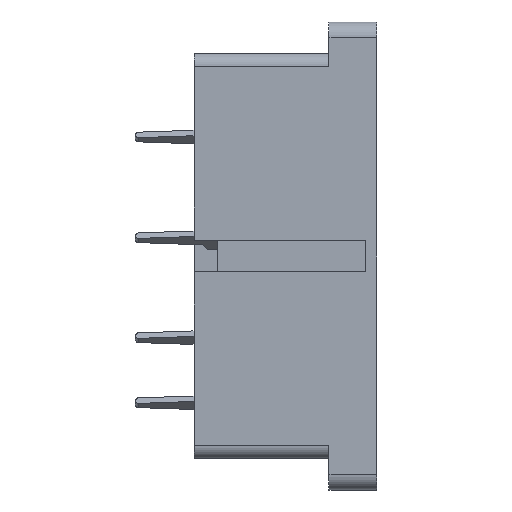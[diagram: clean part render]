
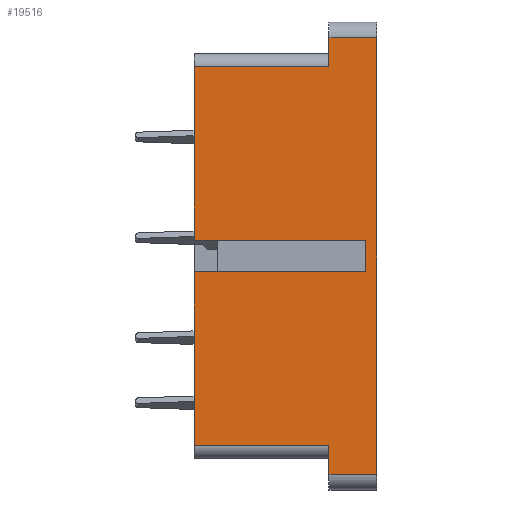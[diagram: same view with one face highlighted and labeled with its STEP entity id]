
A CAD part, left-side view. The second image highlights one B-rep face of the part: STEP entity #19516.
In plain terms, the highlighted planar face has unit normal (-1, 0, 0).
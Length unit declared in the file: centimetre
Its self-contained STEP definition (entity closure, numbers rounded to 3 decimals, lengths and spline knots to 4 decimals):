
#1760=FACE_OUTER_BOUND('',#2716,.T.);
#2716=EDGE_LOOP('',(#17871,#17872,#17873,#17874,#17875,#17876,#17877,#17878,
#17879,#17880,#17881,#17882));
#4668=LINE('',#30076,#7138);
#4671=LINE('',#30086,#7141);
#4699=LINE('',#30150,#7169);
#5103=LINE('',#31021,#7573);
#5104=LINE('',#31024,#7574);
#5114=LINE('',#31048,#7584);
#5117=LINE('',#31058,#7587);
#5125=LINE('',#31072,#7595);
#5155=LINE('',#31133,#7625);
#5161=LINE('',#31144,#7631);
#5162=LINE('',#31146,#7632);
#5177=LINE('',#31174,#7647);
#7138=VECTOR('',#24564,1.095);
#7141=VECTOR('',#24573,1.095);
#7169=VECTOR('',#24621,2.75);
#7573=VECTOR('',#25467,0.85);
#7574=VECTOR('',#25470,0.85);
#7584=VECTOR('',#25494,0.3);
#7587=VECTOR('',#25505,0.18);
#7595=VECTOR('',#25517,0.3);
#7625=VECTOR('',#25581,1.08);
#7631=VECTOR('',#25591,1.08);
#7632=VECTOR('',#25594,0.2);
#7647=VECTOR('',#25625,0.18);
#9162=VERTEX_POINT('',#30073);
#9163=VERTEX_POINT('',#30075);
#9166=VERTEX_POINT('',#30083);
#9167=VERTEX_POINT('',#30085);
#9192=VERTEX_POINT('',#30147);
#9193=VERTEX_POINT('',#30149);
#9439=VERTEX_POINT('',#31019);
#9440=VERTEX_POINT('',#31023);
#9447=VERTEX_POINT('',#31046);
#9450=VERTEX_POINT('',#31056);
#9468=VERTEX_POINT('',#31132);
#9471=VERTEX_POINT('',#31142);
#11701=EDGE_CURVE('',#9162,#9163,#4668,.T.);
#11706=EDGE_CURVE('',#9166,#9167,#4671,.T.);
#11739=EDGE_CURVE('',#9192,#9193,#4699,.T.);
#12190=EDGE_CURVE('',#9439,#9166,#5103,.T.);
#12191=EDGE_CURVE('',#9163,#9440,#5104,.T.);
#12204=EDGE_CURVE('',#9447,#9192,#5114,.T.);
#12209=EDGE_CURVE('',#9450,#9439,#5117,.T.);
#12217=EDGE_CURVE('',#9193,#9450,#5125,.T.);
#12247=EDGE_CURVE('',#9468,#9167,#5155,.T.);
#12253=EDGE_CURVE('',#9162,#9471,#5161,.T.);
#12254=EDGE_CURVE('',#9471,#9468,#5162,.T.);
#12269=EDGE_CURVE('',#9440,#9447,#5177,.T.);
#17871=ORIENTED_EDGE('',*,*,#12209,.F.);
#17872=ORIENTED_EDGE('',*,*,#12217,.F.);
#17873=ORIENTED_EDGE('',*,*,#11739,.F.);
#17874=ORIENTED_EDGE('',*,*,#12204,.F.);
#17875=ORIENTED_EDGE('',*,*,#12269,.F.);
#17876=ORIENTED_EDGE('',*,*,#12191,.F.);
#17877=ORIENTED_EDGE('',*,*,#11701,.F.);
#17878=ORIENTED_EDGE('',*,*,#12253,.T.);
#17879=ORIENTED_EDGE('',*,*,#12254,.T.);
#17880=ORIENTED_EDGE('',*,*,#12247,.T.);
#17881=ORIENTED_EDGE('',*,*,#11706,.F.);
#17882=ORIENTED_EDGE('',*,*,#12190,.F.);
#18616=PLANE('',#20750);
#19516=ADVANCED_FACE('',(#1760),#18616,.T.);
#20750=AXIS2_PLACEMENT_3D('',#31209,#25685,#25686);
#24564=DIRECTION('',(0.,0.,1.));
#24573=DIRECTION('',(0.,0.,1.));
#24621=DIRECTION('',(0.,0.,-1.));
#25467=DIRECTION('',(0.,1.,0.));
#25470=DIRECTION('',(0.,-1.,0.));
#25494=DIRECTION('',(0.,-1.,0.));
#25505=DIRECTION('',(0.,0.,1.));
#25517=DIRECTION('',(0.,1.,0.));
#25581=DIRECTION('',(0.,1.,0.));
#25591=DIRECTION('',(0.,-1.,0.));
#25594=DIRECTION('',(0.,0.,-1.));
#25625=DIRECTION('',(0.,0.,1.));
#25685=DIRECTION('center_axis',(-1.,0.,0.));
#25686=DIRECTION('ref_axis',(0.,0.,1.));
#30073=CARTESIAN_POINT('',(1.2497,0.5842,-0.475));
#30075=CARTESIAN_POINT('',(1.2497,0.5842,0.62));
#30076=CARTESIAN_POINT('',(1.2497,0.5842,0.9));
#30083=CARTESIAN_POINT('',(1.2497,0.5842,-1.77));
#30085=CARTESIAN_POINT('',(1.2497,0.5842,-0.675));
#30086=CARTESIAN_POINT('',(1.2497,0.5842,0.9));
#30147=CARTESIAN_POINT('',(1.2497,-0.5658,0.8));
#30149=CARTESIAN_POINT('',(1.2497,-0.5658,-1.95));
#30150=CARTESIAN_POINT('',(1.2497,-0.5658,0.9));
#31019=CARTESIAN_POINT('',(1.2497,-0.2658,-1.77));
#31021=CARTESIAN_POINT('',(1.2497,0.0092,-1.77));
#31023=CARTESIAN_POINT('',(1.2497,-0.2658,0.62));
#31024=CARTESIAN_POINT('',(1.2497,0.0092,0.62));
#31046=CARTESIAN_POINT('',(1.2497,-0.2658,0.8));
#31048=CARTESIAN_POINT('',(1.2497,-0.5658,0.8));
#31056=CARTESIAN_POINT('',(1.2497,-0.2658,-1.95));
#31058=CARTESIAN_POINT('',(1.2497,-0.2658,-2.));
#31072=CARTESIAN_POINT('',(1.2497,-0.5658,-1.95));
#31132=CARTESIAN_POINT('',(1.2497,-0.4958,-0.675));
#31133=CARTESIAN_POINT('',(1.2497,0.0092,-0.675));
#31142=CARTESIAN_POINT('',(1.2497,-0.4958,-0.475));
#31144=CARTESIAN_POINT('',(1.2497,0.0092,-0.475));
#31146=CARTESIAN_POINT('',(1.2497,-0.4958,-1.3125));
#31174=CARTESIAN_POINT('',(1.2497,-0.2658,-0.625));
#31209=CARTESIAN_POINT('Origin',(1.2497,-0.5658,-2.05));
